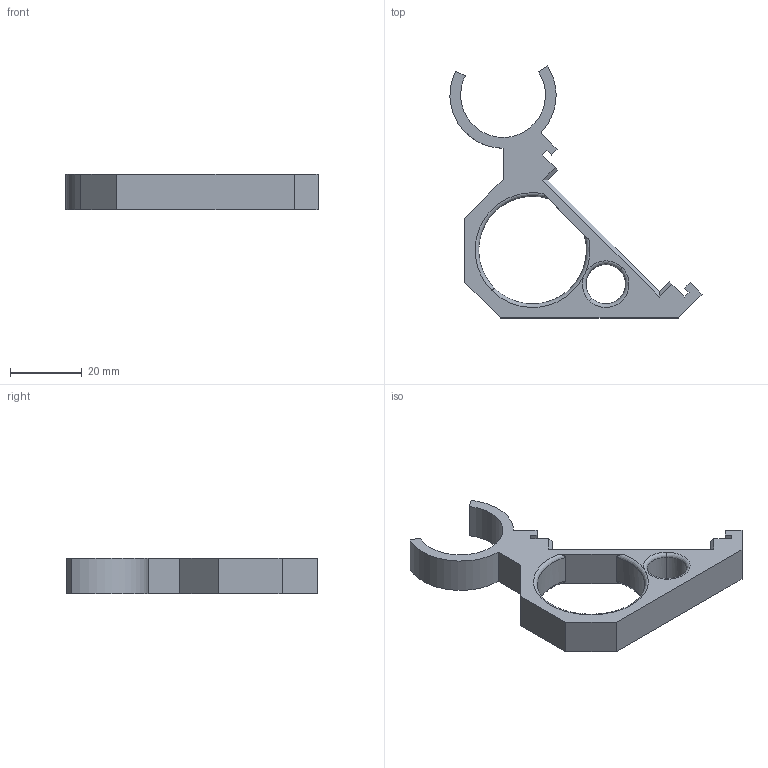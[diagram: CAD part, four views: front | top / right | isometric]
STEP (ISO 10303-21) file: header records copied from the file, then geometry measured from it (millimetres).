
FILE_DESCRIPTION(/* description */ (''),/* implementation_level */ '2;1');
FILE_NAME(/* name */ 'MM_RRD~2',/* time_stamp */ '2015-10-24T06:17:08-04:00',/* author */ (''),/* organization */ (''),/* preprocessor_version */ 'ST-DEVELOPER v15',/* originating_system */ '',/* authorisation */ '');
FILE_SCHEMA (('AUTOMOTIVE_DESIGN'));
Length unit declared in the file: millimetre
Products named in the file (1): Document
Bounding box: 70.27 x 70.23 x 10 mm (x, y, z)
Volume: 10844.1 mm3; surface area: 6382.7 mm2
Topology: 1 solids, 1 shells, 46 faces, 128 edges, 82 vertices
Faces by surface type: bspline 37, plane 9
Entity records: 1778 total; most frequent: CARTESIAN_POINT 1081, ORIENTED_EDGE 256, EDGE_CURVE 128, VERTEX_POINT 82, EDGE_LOOP 48, ADVANCED_FACE 46, FACE_OUTER_BOUND 46, B_SPLINE_CURVE_WITH_KNOTS 37
